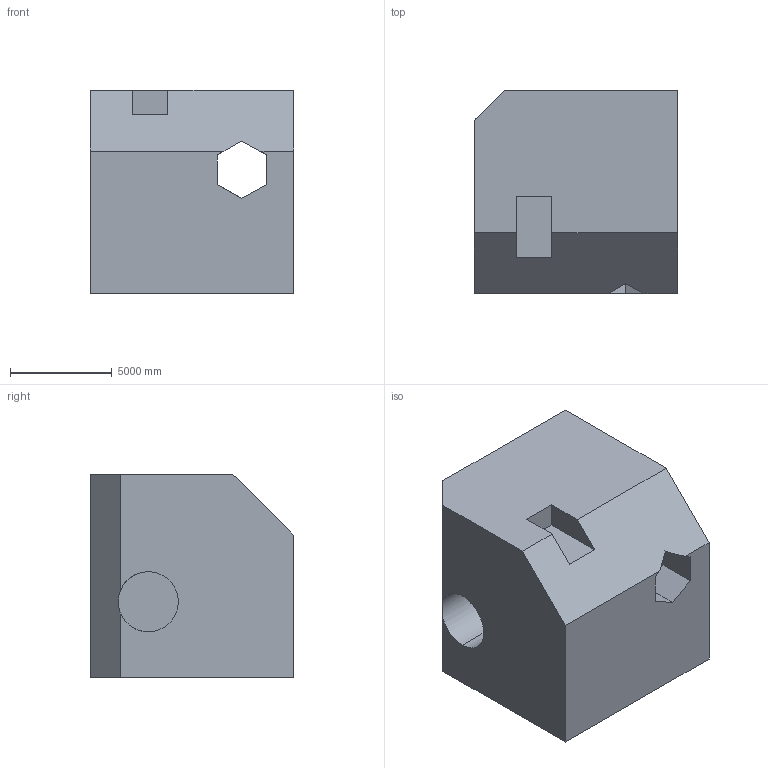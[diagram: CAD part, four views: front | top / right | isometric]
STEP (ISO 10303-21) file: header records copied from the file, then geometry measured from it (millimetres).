
FILE_DESCRIPTION (( 'STEP AP203' ), '1' );
FILE_NAME ('599.STEP', '2022-07-29T12:01:09', ( 'user' ), ( '' ), 'SwSTEP 2.0', 'SolidWorks 2021', '' );
FILE_SCHEMA (( 'CONFIG_CONTROL_DESIGN' ));
Length unit declared in the file: centimetre
Products named in the file (1): 599
Bounding box: 10000 x 10000 x 10000 mm (x, y, z)
Volume: 843887416828.6 mm3; surface area: 713763665 mm2
Topology: 2 solids, 2 shells, 30 faces, 84 edges, 56 vertices
Faces by surface type: plane 24, cylinder 6
Entity records: 1042 total; most frequent: CARTESIAN_POINT 198, ORIENTED_EDGE 168, DIRECTION 148, EDGE_CURVE 84, VECTOR 64, LINE 64, VERTEX_POINT 56, AXIS2_PLACEMENT_3D 42
